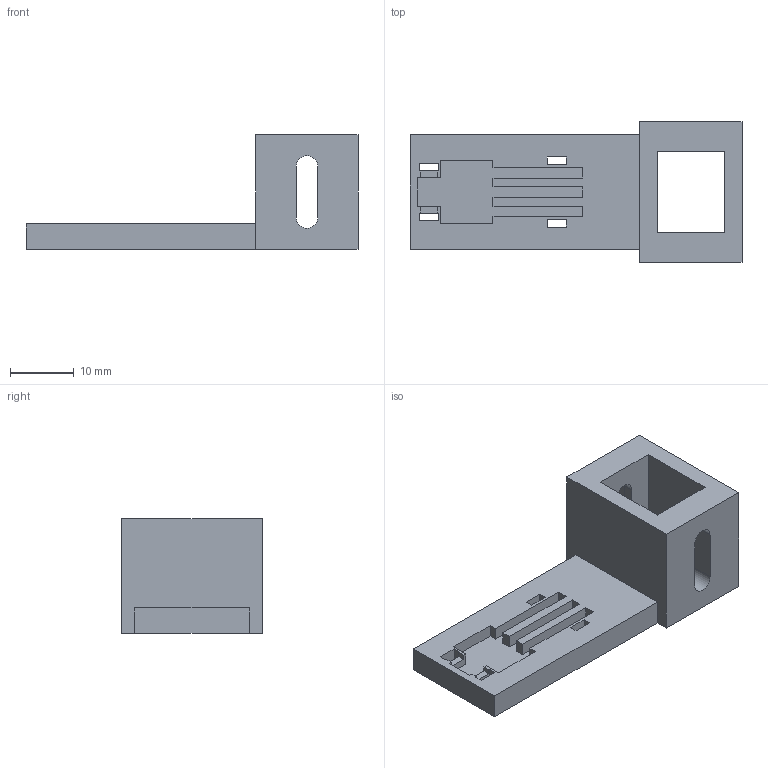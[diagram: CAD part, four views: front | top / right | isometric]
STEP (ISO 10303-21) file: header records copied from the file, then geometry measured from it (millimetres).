
FILE_DESCRIPTION(('Open CASCADE Model'),'2;1');
FILE_NAME('Open CASCADE Shape Model','2026-11-12T16:33:15',('Author'),( 'Open CASCADE'),'Open CASCADE STEP processor 7.9','Open CASCADE 7.9' ,'Unknown');
FILE_SCHEMA(('AUTOMOTIVE_DESIGN { 1 0 10303 214 1 1 1 1 }'));
Length unit declared in the file: millimetre
Products named in the file (1): Open CASCADE STEP translator 7.9 9
Bounding box: 52 x 22 x 18 mm (x, y, z)
Volume: 5634.4 mm3; surface area: 4731.4 mm2
Topology: 1 solids, 1 shells, 70 faces, 204 edges, 136 vertices
Faces by surface type: plane 66, cylinder 4
Entity records: 4792 total; most frequent: CARTESIAN_POINT 993, DIRECTION 588, LINE 422, VECTOR 422, ORIENTED_EDGE 408, PCURVE 408, DEFINITIONAL_REPRESENTATION 408, EDGE_CURVE 204
